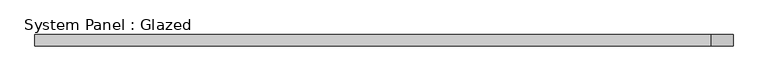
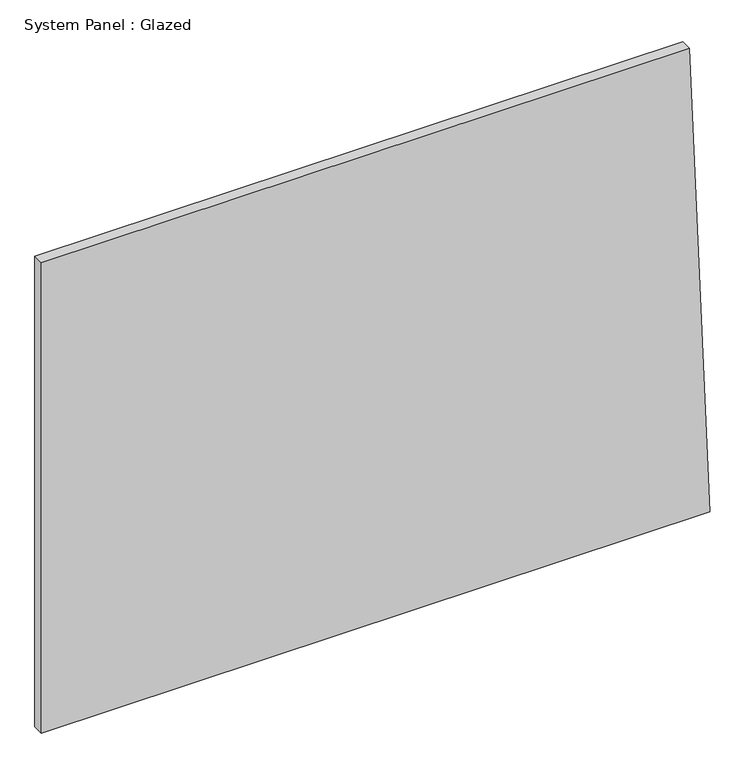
"""IFC4 building model written with IfcOpenShell, lengths in millimetres: plate geometry, System Panel : Glazed."""

import ifcopenshell
import ifcopenshell.guid

model = None  # the IFC model being written
_history = None  # IfcOwnerHistory: only IFC2X3 demands one
_inside = {}  # id of a spatial element -> (the spatial element, [elements in it])
_under = {}  # id of a project, library or spatial element -> (it, [spatial elements below it])
_declared = {}  # id of a project -> (the project, [libraries it declares])
_typed = {}  # id of a type object -> (the type object, [elements of that type])
_made_of = {}  # id of a material, layer set ... -> (it, [elements and type objects made of it])


def new_model(schema):
    """Start an empty IFC model of exactly this schema.

    Asked for "IFC4X3", IfcOpenShell would pick the latest addendum, in which some entities
    have other attributes; the version numbers below select the first issue.
    IFC2X3 requires an IfcOwnerHistory on every rooted entity: one is made here for all.
    """
    global model, _history
    if schema == "IFC4X3":
        model = ifcopenshell.file(schema_version=(4, 3, 0, 0))
    else:
        model = ifcopenshell.file(schema=schema)
    _inside.clear()
    _under.clear()
    _declared.clear()
    _typed.clear()
    _made_of.clear()
    _history = None
    if model.schema == "IFC2X3":
        org = make("IfcOrganization", Name="unknown")
        user = make(
            "IfcPersonAndOrganization",
            ThePerson=make("IfcPerson", FamilyName="unknown"),
            TheOrganization=org,
        )
        app = make(
            "IfcApplication",
            ApplicationDeveloper=org,
            Version="unknown",
            ApplicationFullName="unknown",
            ApplicationIdentifier="unknown",
        )
        _history = make(
            "IfcOwnerHistory",
            OwningUser=user,
            OwningApplication=app,
            ChangeAction="ADDED",
            CreationDate=0,
        )
    return model


def make(cls, **values):
    """One entity of the class cls with the attributes given. An attribute that is None is left unset."""
    return model.create_entity(
        cls, **{name: value for name, value in values.items() if value is not None}
    )


def rooted(cls, **values):
    """An entity with a GlobalId (a new one), such as an element, a storey or a relation."""
    return make(cls, GlobalId=ifcopenshell.guid.new(), OwnerHistory=_history, **values)


def si_unit(unit_type, name, prefix=None):
    """IfcSIUnit, for example si_unit("LENGTHUNIT", "METRE", prefix="MILLI")."""
    return make("IfcSIUnit", UnitType=unit_type, Prefix=prefix, Name=name)


def assignment(units):
    """IfcUnitAssignment: the units of a project."""
    return None if units is None else make("IfcUnitAssignment", Units=units)


def point(xyz):
    """IfcCartesianPoint."""
    return None if xyz is None else make("IfcCartesianPoint", Coordinates=xyz)


def direction(xyz):
    """IfcDirection."""
    return None if xyz is None else make("IfcDirection", DirectionRatios=xyz)


def frame(location, z_axis=None, x_axis=None):
    """IfcAxis2Placement3D, a coordinate frame: its origin and axes. An axis left out is left unset."""
    return make(
        "IfcAxis2Placement3D",
        Location=point(location),
        Axis=direction(z_axis),
        RefDirection=direction(x_axis),
    )


def origin():
    """The frame at (0, 0, 0) with its axes left unset."""
    return frame((0.0, 0.0, 0.0))


def place(relative_to, where):
    """IfcLocalPlacement: puts the frame where relative to a parent placement (None: the world)."""
    return make(
        "IfcLocalPlacement", PlacementRelTo=relative_to, RelativePlacement=where
    )


def context(
    kind, dimensions, precision=None, world=None, true_north=None, identifier=None
):
    """IfcGeometricRepresentationContext, for example the 3D "Model" context."""
    return make(
        "IfcGeometricRepresentationContext",
        ContextIdentifier=identifier,
        ContextType=kind,
        CoordinateSpaceDimension=dimensions,
        Precision=precision,
        WorldCoordinateSystem=world,
        TrueNorth=true_north,
    )


def project(units=None, contexts=None):
    """IfcProject with its units and contexts."""
    return rooted(
        "IfcProject",
        Name="project",
        RepresentationContexts=contexts,
        UnitsInContext=assignment(units),
    )


def spatial(cls, under=None, at=None, **own):
    """A site, building, storey or space (cls), placed at a placement, below another one or the project."""
    s = rooted(cls, ObjectPlacement=at, **own)
    if under is not None:
        _under.setdefault(under.id(), (under, []))[1].append(s)
    return s


def polyline(points):
    """IfcPolyline through the points."""
    return make("IfcPolyline", Points=[point(p) for p in points])


def outline(outer, holes=None, kind="AREA"):
    """IfcArbitraryClosedProfileDef: a profile drawn as a closed curve; with holes, ...WithVoids."""
    if holes is None:
        return make("IfcArbitraryClosedProfileDef", ProfileType=kind, OuterCurve=outer)
    return make(
        "IfcArbitraryProfileDefWithVoids",
        ProfileType=kind,
        OuterCurve=outer,
        InnerCurves=holes,
    )


def extrude(swept, where, along, depth):
    """IfcExtrudedAreaSolid: the profile swept, set in the frame where, extruded along a direction by depth."""
    return make(
        "IfcExtrudedAreaSolid",
        SweptArea=swept,
        Position=where,
        ExtrudedDirection=direction(along),
        Depth=depth,
    )


def shape(context_of_items, identifier, shape_type, items):
    """IfcShapeRepresentation: the items that make up one representation, for example the "Body"."""
    return make(
        "IfcShapeRepresentation",
        ContextOfItems=context_of_items,
        RepresentationIdentifier=identifier,
        RepresentationType=shape_type,
        Items=items,
    )


def source(mapping_origin, context_of_items, identifier, shape_type, items):
    """IfcRepresentationMap: a shape defined once, which mapped items show again and again."""
    return make(
        "IfcRepresentationMap",
        MappingOrigin=mapping_origin,
        MappedRepresentation=shape(context_of_items, identifier, shape_type, items),
    )


def transform(
    local_origin,
    x_axis=None,
    y_axis=None,
    z_axis=None,
    scale=None,
    scale2=None,
    scale3=None,
    uniform=True,
):
    """IfcCartesianTransformationOperator3D, or its non-uniform kind. x_axis, y_axis, z_axis: its Axis1, 2, 3."""
    if uniform:
        return make(
            "IfcCartesianTransformationOperator3D",
            Axis1=direction(x_axis),
            Axis2=direction(y_axis),
            LocalOrigin=point(local_origin),
            Scale=scale,
            Axis3=direction(z_axis),
        )
    return make(
        "IfcCartesianTransformationOperator3DnonUniform",
        Axis1=direction(x_axis),
        Axis2=direction(y_axis),
        LocalOrigin=point(local_origin),
        Scale=scale,
        Axis3=direction(z_axis),
        Scale2=scale2,
        Scale3=scale3,
    )


def mapped(mapping_source, mapping_target):
    """IfcMappedItem: shows the shape of a source again, moved by a transform."""
    return make(
        "IfcMappedItem", MappingSource=mapping_source, MappingTarget=mapping_target
    )


def made_of(thing, what):
    """Note that an element or type object is made of a material, layer set ...; save() writes the relation."""
    if what is not None:
        _made_of.setdefault(what.id(), (what, []))[1].append(thing)
    return thing


def element(
    cls,
    number,
    at=None,
    inside=None,
    cuts=None,
    type_object=None,
    material=None,
    context=None,
    identifier="Body",
    shape_type=None,
    held_by="IfcProductDefinitionShape",
    body=None,
    shapes=None,
    **own,
):
    """One element of the class cls, such as IfcWall. Its Tag is "e" and its number.

    at: its placement. inside: the storey or other place that contains it. cuts: it is an
    opening in that element (IfcRelVoidsElement). A single representation is given by context,
    identifier, shape_type and body (its items); several are given by shapes. held_by: the class
    of the entity that holds the representations. save() writes the other relations.
    """
    e = rooted(cls, Tag="e%d" % number, ObjectPlacement=at, **own)
    if body is not None:
        shapes = [shape(context, identifier, shape_type, body)]
    if shapes is not None:
        e.Representation = make(held_by, Representations=shapes)
    if inside is not None:
        _inside.setdefault(inside.id(), (inside, []))[1].append(e)
    if cuts is not None:
        rooted(
            "IfcRelVoidsElement", RelatingBuildingElement=cuts, RelatedOpeningElement=e
        )
    if type_object is not None:
        _typed.setdefault(type_object.id(), (type_object, []))[1].append(e)
    return made_of(e, material)


def aggregate(whole, parts):
    """IfcRelAggregates: a whole, such as a stair, and the parts it consists of."""
    return rooted("IfcRelAggregates", RelatingObject=whole, RelatedObjects=parts)


def save(model, path):
    """Write the relations noted so far, then the file.

    IfcRelAggregates (storeys below a building ...), IfcRelContainedInSpatialStructure (elements
    in a storey), IfcRelDefinesByType, IfcRelAssociatesMaterial and IfcRelDeclares: one each for
    every whole, place, type object, material and project.
    """
    for whole, parts in _under.values():
        aggregate(whole, parts)
    for where, things in _inside.values():
        rooted(
            "IfcRelContainedInSpatialStructure",
            RelatedElements=things,
            RelatingStructure=where,
        )
    for kind, things in _typed.values():
        rooted("IfcRelDefinesByType", RelatedObjects=things, RelatingType=kind)
    for what, things in _made_of.values():
        rooted("IfcRelAssociatesMaterial", RelatedObjects=things, RelatingMaterial=what)
    for by, libraries in _declared.values():
        rooted("IfcRelDeclares", RelatingContext=by, RelatedDefinitions=libraries)
    model.write(path)


def system_panel_glazed_ef8cde7e(model_context):
    return source(origin(), model_context, "Body", "SweptSolid", [
        extrude(outline(polyline([(0.0, -777.4751337), (0.0, 777.4751337), (1155.7, 729.3363761), (1155.7, -777.4751337), (0.0, -777.4751337)])), frame((0.0, 19.05, 0.0), z_axis=(0.0, 1.0, 0.0), x_axis=(0.0, 0.0, 1.0)), (0.0, 0.0, 1.0), 25.4),
    ])


if __name__ == "__main__":
    model = new_model("IFC4")
    model_context = context("Model", 3, world=origin())
    ifc_project = project(units=[si_unit("LENGTHUNIT", "METRE", prefix="MILLI")], contexts=[model_context])
    site = spatial("IfcSite", under=ifc_project)
    building = spatial("IfcBuilding", under=site)
    placement = place(None, origin())
    system_panel_glazed_shape = system_panel_glazed_ef8cde7e(model_context)
    element("IfcPlate", 1, ObjectType="System Panel : Glazed", at=placement, inside=building, context=model_context, shape_type="MappedRepresentation", body=[
        mapped(system_panel_glazed_shape, transform((0.0, 0.0, 0.0), x_axis=(1.0, 0.0, 0.0), y_axis=(0.0, 1.0, 0.0), z_axis=(0.0, 0.0, 1.0))),
    ])
    save(model, "model.ifc")
